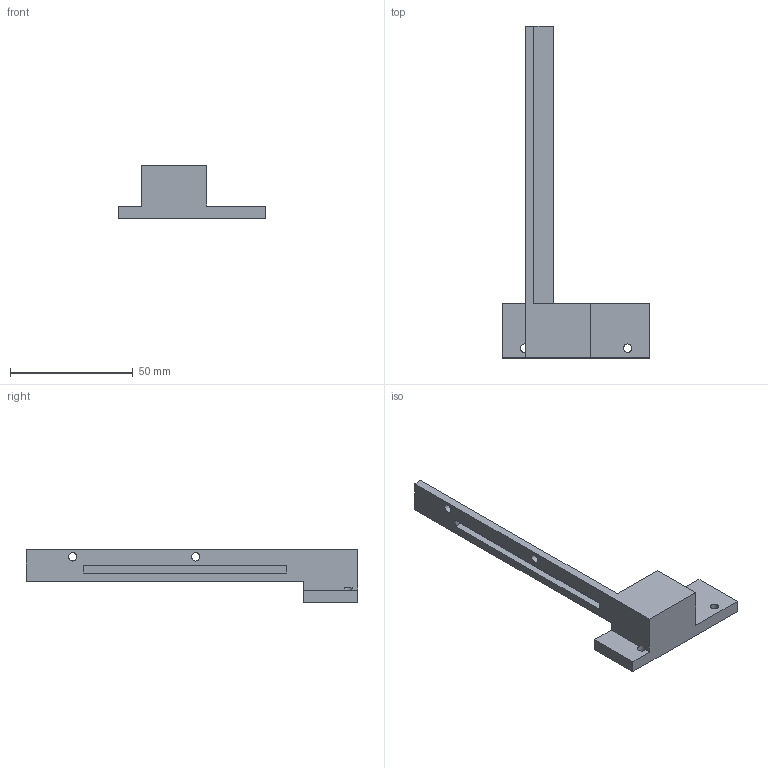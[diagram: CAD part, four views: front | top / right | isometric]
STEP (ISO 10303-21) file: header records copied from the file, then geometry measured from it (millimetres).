
FILE_DESCRIPTION(('Open CASCADE Model'),'2;1');
FILE_NAME('Open CASCADE Shape Model','2026-10-15T20:56:36',('Author'),( 'Open CASCADE'),'Open CASCADE STEP processor 7.9','Open CASCADE 7.9' ,'Unknown');
FILE_SCHEMA(('AUTOMOTIVE_DESIGN { 1 0 10303 214 1 1 1 1 }'));
Length unit declared in the file: millimetre
Products named in the file (1): Open CASCADE STEP translator 7.9 9
Bounding box: 60 x 135 x 21.4 mm (x, y, z)
Volume: 22696.1 mm3; surface area: 11173.3 mm2
Topology: 1 solids, 1 shells, 27 faces, 72 edges, 48 vertices
Faces by surface type: plane 22, cylinder 5
Full cylindrical faces by diameter (mm): 3.4 x5
Entity records: 1830 total; most frequent: CARTESIAN_POINT 352, DIRECTION 274, LINE 192, VECTOR 192, ORIENTED_EDGE 144, PCURVE 144, DEFINITIONAL_REPRESENTATION 144, EDGE_CURVE 72
